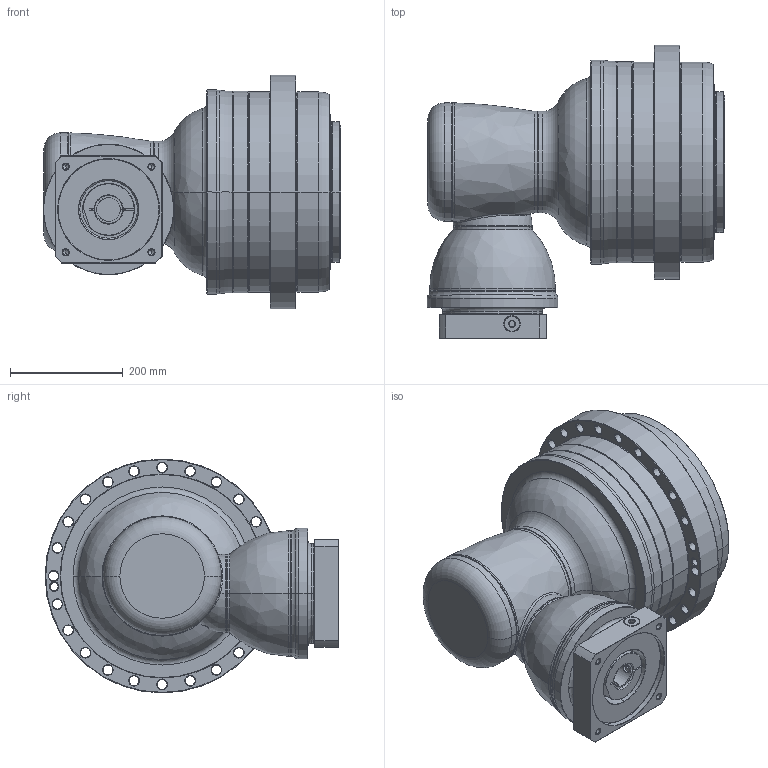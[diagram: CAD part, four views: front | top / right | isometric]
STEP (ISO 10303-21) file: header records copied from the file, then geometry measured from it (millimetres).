
FILE_DESCRIPTION((''),'2;1');
FILE_NAME('APK355_3ST_42-P0409A00201_ASM','2018-11-21T',('D00080'),(''),'PRO/ENGINEER BY PARAMETRIC TECHNOLOGY CORPORATION, 2015240','PRO/ENGINEER BY PARAMETRIC TECHNOLOGY CORPORATION, 2015240','');
FILE_SCHEMA(('CONFIG_CONTROL_DESIGN'));
Length unit declared in the file: millimetre
Products named in the file (13): P1008600002; P1315600001; P1007601001; P1318610301; P1821110001; P0276101003; P0357101103; P1222100001; P0503A00012; P0912603001; P0409A00201; 21711422019; APK355_3ST_42-P0409A00201_ASM
Assembly tree (12 placements, depth 2):
  APK355_3ST_42-P0409A00201_ASM
    P1008600002
    P1315600001
    P1007601001
    P1318610301
    P1821110001
    P0276101003
    P0357101103
    P1222100001
    P0503A00012
    P0912603001
    P0409A00201
    21711422019
Bounding box: 528 x 521 x 415 mm (x, y, z)
Volume: 42833179.9 mm3; surface area: 2131701.4 mm2
Topology: 13 solids, 40 shells, 813 faces, 1843 edges, 1105 vertices
Faces by surface type: cylinder 321, cone 234, plane 131, torus 94, bspline 31, sphere 2
Entity records: 29100 total; most frequent: CARTESIAN_POINT 10196, DIRECTION 4361, ORIENTED_EDGE 3488, AXIS2_PLACEMENT_3D 1870, EDGE_CURVE 1799, VERTEX_POINT 1105, CIRCLE 1051, EDGE_LOOP 974
